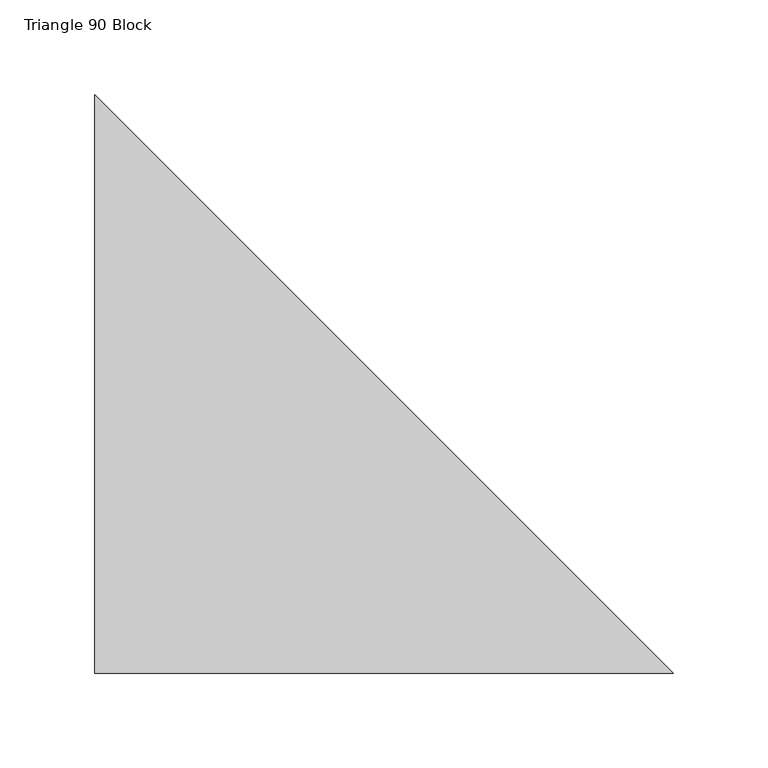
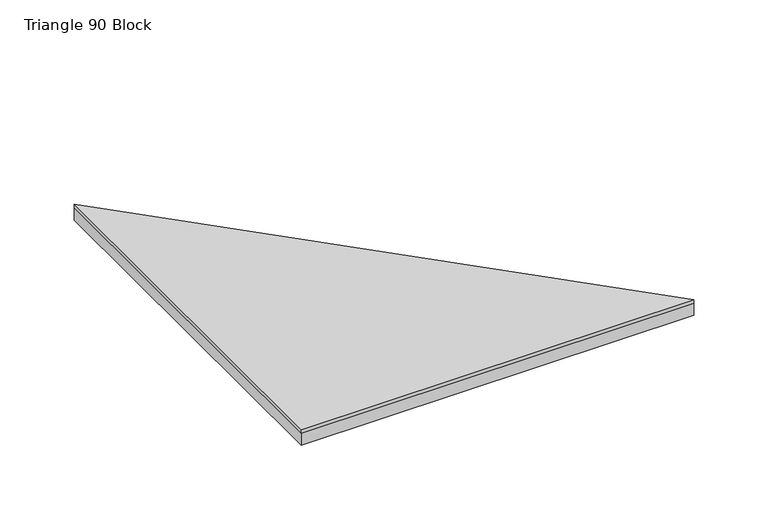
"""IFC4 building model written with IfcOpenShell, lengths in millimetres: proxy geometry, FilzFelt_Triangle_90_Block : Triangle 90 Block."""

from ifc_helpers import new_model, si_unit, frame, origin, origin_with_axes, place, context, project, spatial, polyline, outline, extrude, source, transform, mapped, element, save


def triangle_90_block_a3482206(model_context):
    return source(origin(), model_context, "Body", "SweptSolid", [
        extrude(outline(polyline([(-152.5, 152.5), (152.5, -152.5), (-152.5, -152.5), (-152.5, 152.5)])), frame((0.0, 0.0, 10.0210937), z_axis=(0.0, 0.0, 1.0), x_axis=(1.0, 0.0, 0.0)), (0.0, 0.0, 1.0), 2.9765625),
        extrude(outline(polyline([(-152.5, -152.5), (-152.5, 152.5), (152.5, -152.5), (-152.5, -152.5)])), origin_with_axes(), (0.0, 0.0, 1.0), 10.0210938),
    ])


if __name__ == "__main__":
    model = new_model("IFC4")
    model_context = context("Model", 3, world=origin())
    ifc_project = project(units=[si_unit("LENGTHUNIT", "METRE", prefix="MILLI")], contexts=[model_context])
    site = spatial("IfcSite", under=ifc_project)
    building = spatial("IfcBuilding", under=site)
    placement = place(None, origin())
    triangle_90_block_shape = triangle_90_block_a3482206(model_context)
    element("IfcBuildingElementProxy", 1, Name="FilzFelt_Triangle_90_Block : Triangle 90 Block", ObjectType="FilzFelt_Triangle_90_Block : Triangle 90 Block", at=placement, inside=building, context=model_context, shape_type="MappedRepresentation", body=[
        mapped(triangle_90_block_shape, transform((0.0, 0.0, 0.0), x_axis=(1.0, 0.0, 0.0), y_axis=(0.0, 1.0, 0.0), z_axis=(0.0, 0.0, 1.0))),
    ])
    save(model, "model.ifc")
